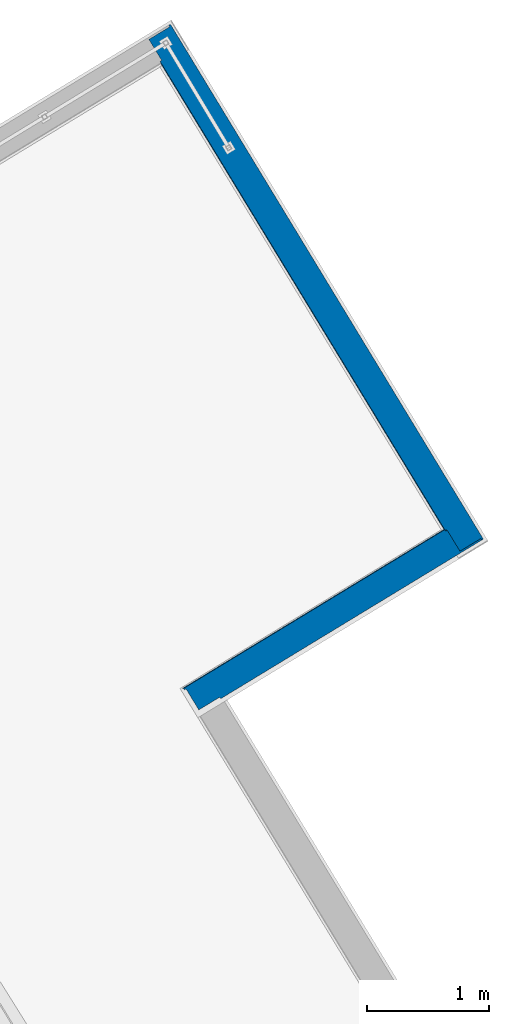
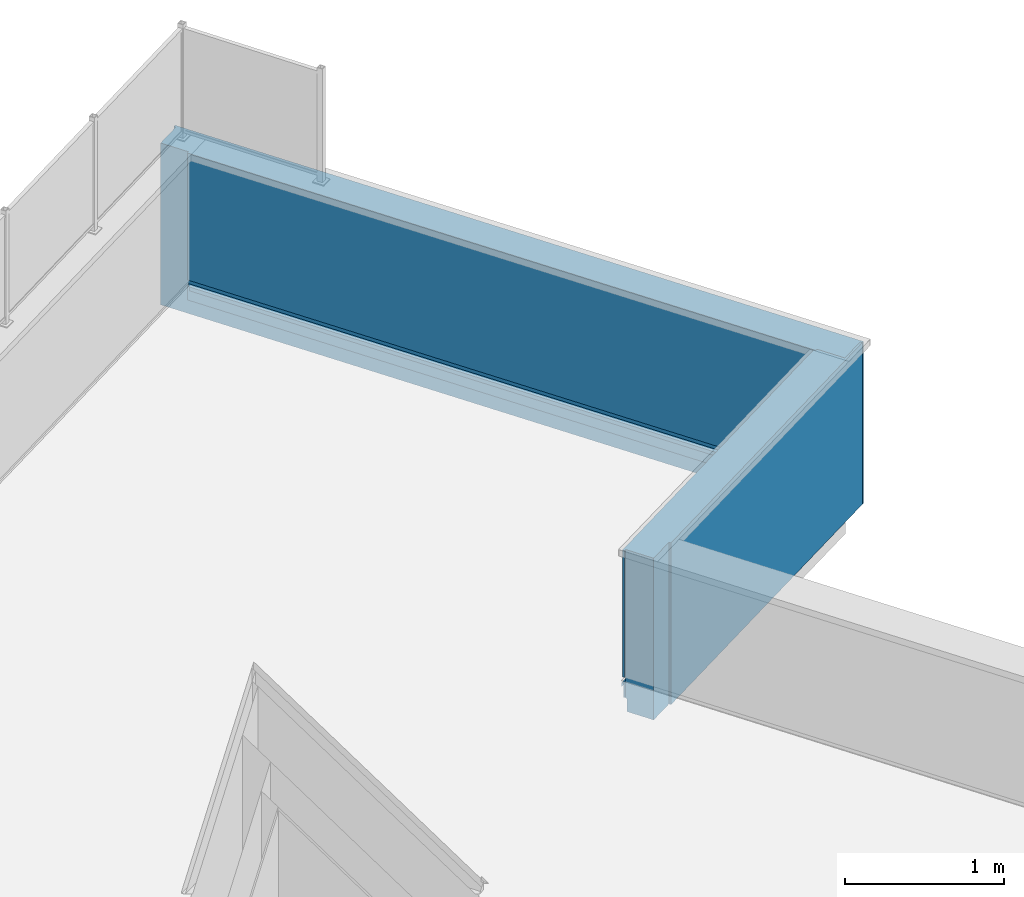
# One storey, part 52 of 91: 2 walls.
"""IFC2X3 building model written with IfcOpenShell, lengths in metres."""

from ifc_helpers import new_model, entity, si_unit, converted_unit, derived_unit, money_unit, direction, frame, origin_with_axes, place, context, subcontext, project, spatial, faceted_brep, material, material_list, type_object, element, save


model = new_model("IFC2X3")

# Units and contexts
model_context = context("Model", 3, precision=1e-05, world=origin_with_axes(), true_north=direction((0.0, 1.0)))
body_context = subcontext(model_context, "Body", "Model", "MODEL_VIEW")
ifc_project = project(units=[si_unit("LENGTHUNIT", "METRE"), si_unit("AREAUNIT", "SQUARE_METRE"), si_unit("VOLUMEUNIT", "CUBIC_METRE"), converted_unit("PLANEANGLEUNIT", "DEGREE", entity("IfcPlaneAngleMeasure", 0.0174532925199), si_unit("PLANEANGLEUNIT", "RADIAN"), dimensions=[0, 0, 0, 0, 0, 0, 0]), si_unit("SOLIDANGLEUNIT", "STERADIAN"), money_unit("EUR"), converted_unit("TIMEUNIT", "Year", entity("IfcTimeMeasure", 31556926.0), si_unit("TIMEUNIT", "SECOND"), dimensions=[0, 0, 1, 0, 0, 0, 0]), si_unit("MASSUNIT", "GRAM", prefix="KILO"), si_unit("THERMODYNAMICTEMPERATUREUNIT", "DEGREE_CELSIUS"), si_unit("LUMINOUSINTENSITYUNIT", "LUMEN"), si_unit("ENERGYUNIT", "JOULE", prefix="MEGA"), derived_unit("THERMALCONDUCTANCEUNIT", [(si_unit("POWERUNIT", "WATT"), 1), (si_unit("LENGTHUNIT", "METRE"), -1), (si_unit("THERMODYNAMICTEMPERATUREUNIT", "KELVIN"), -1)]), derived_unit("SPECIFICHEATCAPACITYUNIT", [(si_unit("ENERGYUNIT", "JOULE"), 1), (si_unit("MASSUNIT", "GRAM", prefix="KILO"), -1), (si_unit("THERMODYNAMICTEMPERATUREUNIT", "KELVIN"), -1)]), derived_unit("MASSDENSITYUNIT", [(si_unit("MASSUNIT", "GRAM", prefix="KILO"), 1), (si_unit("VOLUMEUNIT", "CUBIC_METRE"), -1)])], contexts=[model_context])

# Site, building, storey
site_placement = place(None, origin_with_axes())
site = spatial("IfcSite", under=ifc_project, at=site_placement, Name="Site", CompositionType="ELEMENT")
building_placement = place(site_placement, origin_with_axes())
building = spatial("IfcBuilding", under=site, at=building_placement, Name="Bâtiment", CompositionType="ELEMENT")
storey_placement = place(building_placement, frame((0.0, 0.0, 5.44), z_axis=(0.0, 0.0, 1.0), x_axis=(1.0, 0.0, 0.0)))
storey = spatial("IfcBuildingStorey", under=building, at=storey_placement, Name="R+2", CompositionType="ELEMENT", Elevation=5.44)

# Walls
ifc_material_1 = material(Name="Finition ext - Crépis")
ifc_material_2 = material(Name="Béton")
ifc_material_3 = material(Name="Etanchéité - Bitume")
ifc_material_4 = material(Name="Métal - Aluminium")
ifc_material_list = material_list([ifc_material_1, ifc_material_2, ifc_material_3, ifc_material_1, ifc_material_4])
wall_type = type_object("IfcWallType", Name="Acrotère pour plancher 21 isolée TERRASSE ACCESSIBLE 235 x 1240", PredefinedType="USERDEFINED")
wall_1_placement = place(storey_placement, frame((2.89401231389, 21.9500525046, 0.0), z_axis=(0.0, 0.0, 1.0), x_axis=(-0.854539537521, -0.519386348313, 0.0)))
element("IfcWall", 1, at=wall_1_placement, inside=storey, type_object=wall_type, material=ifc_material_list, Name="Muret béton 20cm", ObjectType="PARAPET", context=body_context, shape_type="Brep", body=[
    faceted_brep([(0.0149999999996, -0.015, 1.24), (2.51500000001, -0.015, 1.24), (2.51500000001, 0.0, 1.24), (0.015, 0.0, 1.24), (2.51500000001, -0.015, 0.228976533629), (2.51500000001, -0.015, 0.267041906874), (0.0149999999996, -0.015, 0.267041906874), (0.0149999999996, -0.015, 0.228976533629), (0.0149999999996, -0.015, 0.22), (0.0149999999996, -0.015, 0.192882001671), (0.0149999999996, -0.015, 0.1), (0.0149999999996, -0.015, 0.0), (2.51500000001, -0.015, 0.0), (2.51500000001, -0.015, 0.1), (2.51500000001, -0.015, 0.192882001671), (2.51500000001, -0.015, 0.22), (2.51500000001, 0.0, 0.267041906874), (2.51500000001, 0.0, 0.228976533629), (2.51500000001, 0.0, 0.22), (2.51500000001, 0.0, 0.192882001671), (2.51500000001, 0.0, 0.1), (2.51500000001, 0.0, 0.0), (0.015, 0.0, 0.0), (0.015, 0.0, 0.1), (0.015, 0.0, 0.192882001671), (0.015, 0.0, 0.22), (0.015, 0.0, 0.228976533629), (0.015, 0.0, 0.267041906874)], [[[0, 1, 2, 3]], [[4, 5, 1, 0, 6, 7, 8, 9, 10, 11, 12, 13, 14, 15]], [[5, 16, 2, 1]], [[3, 2, 16, 17, 18, 19, 20, 21, 22, 23, 24, 25, 26, 27]], [[6, 0, 3, 27]], [[17, 16, 5, 4]], [[7, 6, 27, 26]], [[8, 7, 26, 25]], [[9, 8, 25, 24]], [[10, 9, 24, 23]], [[11, 10, 23, 22]], [[22, 21, 12, 11]], [[21, 20, 13, 12]], [[20, 19, 14, 13]], [[19, 18, 15, 14]], [[18, 17, 4, 15]]]),
    faceted_brep([(0.214999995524, -0.204184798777, 0.0), (0.214999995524, -0.204184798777, 0.1), (0.215, -0.015, 0.1), (0.215, -0.015, 0.0), (2.71499999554, -0.204184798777, 0.0), (2.71499999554, -0.204184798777, 0.1), (0.214999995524, -0.215, 0.1), (0.214999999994, -0.215, 0.192882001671), (0.215, -0.015, 0.192882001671), (0.215, -0.015, 1.24), (2.71500000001, -0.015, 1.24), (2.71500000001, -0.015, 0.267041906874), (2.71500000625, -0.015, 0.228976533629), (2.71500000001, -0.015, 0.22), (2.71500000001, -0.015, 0.192882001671), (2.71500000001, -0.015, 0.1), (2.71500000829, -0.015, 0.0), (0.215, -0.015, 0.22), (0.215, -0.015, 0.228976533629), (0.215, -0.015, 0.267041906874), (2.71500000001, -0.215, 0.1), (2.71500000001, -0.215, 0.192882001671), (2.71500000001, -0.215, 0.22), (0.214999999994, -0.215, 0.22), (0.214999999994, -0.215, 1.24), (2.71500000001, -0.215, 1.24), (2.71500000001, -0.215, 0.267041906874), (2.71500000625, -0.215, 0.228976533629), (0.214999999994, -0.215, 0.228976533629), (0.214999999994, -0.215, 0.267041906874)], [[[0, 1, 2, 3]], [[1, 0, 4, 5]], [[1, 6, 7, 8, 2]], [[9, 10, 11, 12, 13, 14, 15, 16, 3, 2, 8, 17, 18, 19]], [[4, 0, 3, 16]], [[5, 4, 16, 15]], [[6, 1, 5, 20]], [[6, 20, 21, 22, 23, 7]], [[7, 23, 17, 8]], [[24, 25, 10, 9]], [[26, 11, 10, 25]], [[12, 11, 26, 27]], [[13, 12, 27, 22]], [[14, 13, 22, 21]], [[20, 5, 15, 14, 21]], [[23, 28, 18, 17]], [[28, 29, 19, 18]], [[29, 24, 9, 19]], [[23, 22, 27, 28]], [[27, 26, 25, 24, 29, 28]]]),
    faceted_brep([(2.72500000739, -0.215, 0.11), (2.71500000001, -0.215, 0.11), (0.224999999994, -0.215, 0.11), (0.224999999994, -0.215, 0.192882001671), (0.224999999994, -0.215, 0.22), (2.72499999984, -0.215, 0.22), (2.72499999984, -0.215, 0.192882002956), (0.224999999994, -0.225, 0.11), (2.72500000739, -0.225, 0.11), (0.224999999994, -0.225, 0.192882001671), (0.224999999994, -0.225, 0.22), (2.72499999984, -0.225, 0.22), (2.72499999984, -0.225, 0.192882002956)], [[[0, 1, 2, 3, 4, 5, 6]], [[7, 2, 1, 0, 8]], [[2, 7, 9, 3]], [[9, 10, 4, 3]], [[10, 11, 5, 4]], [[12, 6, 5, 11]], [[8, 0, 6, 12]], [[7, 8, 12, 11, 10, 9]]]),
    faceted_brep([(0.229999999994, -0.215, 0.267041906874), (0.229999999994, -0.215, 1.24), (2.7300000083, -0.215, 1.24), (2.7300000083, -0.215, 0.267041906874), (0.229999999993, -0.23, 1.24), (0.229999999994, -0.216045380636, 0.267041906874), (0.229999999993, -0.23, 0.267041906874), (2.7300000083, -0.23, 1.24), (2.7300000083, -0.216045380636, 0.267041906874), (2.7300000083, -0.23, 0.267041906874)], [[[0, 1, 2, 3]], [[4, 1, 0, 5, 6]], [[1, 4, 7, 2]], [[8, 3, 2, 7, 9]], [[5, 0, 3, 8]], [[6, 5, 8, 9]], [[4, 6, 9, 7]]]),
    faceted_brep([(0.21864041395, -0.215, 0.228976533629), (0.216045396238, -0.215, 0.230023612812), (0.216045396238, -0.215, 0.267041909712), (2.71604538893, -0.215, 0.267041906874), (2.71604538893, -0.215, 0.230023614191), (2.71864040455, -0.215, 0.228976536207), (0.21864041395, -0.218640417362, 0.228976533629), (0.216045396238, -0.216045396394, 0.230023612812), (0.216045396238, -0.216045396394, 0.267041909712), (2.71604538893, -0.216045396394, 0.267041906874), (2.71604538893, -0.216045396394, 0.230023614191), (2.73548465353, -0.231614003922, 0.222179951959), (2.73548465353, -0.235484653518, 0.222179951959), (0.235484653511, -0.231614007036, 0.222179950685), (2.73548465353, -0.234250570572, 0.221101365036), (0.235484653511, -0.234250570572, 0.221101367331), (0.235484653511, -0.235484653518, 0.222179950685), (2.73548465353, -0.234250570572, 0.192882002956), (2.73548465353, -0.235484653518, 0.192882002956), (0.235484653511, -0.234250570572, 0.22), (0.235484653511, -0.234250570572, 0.192882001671), (0.235484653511, -0.235484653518, 0.22), (0.235484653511, -0.235484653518, 0.192882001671)], [[[0, 1, 2, 3, 4, 5]], [[1, 0, 6, 7]], [[8, 2, 1, 7]], [[2, 8, 9, 3]], [[10, 4, 3, 9]], [[11, 5, 4, 10, 12]], [[13, 0, 5, 11, 14, 15]], [[6, 0, 13, 16]], [[7, 6, 16, 12, 10]], [[8, 7, 10, 9]], [[17, 14, 11, 12, 18]], [[19, 15, 14, 17, 20]], [[13, 15, 19, 21, 16]], [[16, 21, 22, 18, 12]], [[22, 20, 17, 18]], [[21, 19, 20, 22]]]),
])
wall_2_placement = place(storey_placement, frame((0.333861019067, 26.1622358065, 0.0), z_axis=(0.0, 0.0, 1.0), x_axis=(0.519386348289, -0.854539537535, 0.0)))
element("IfcWall", 2, at=wall_2_placement, inside=storey, type_object=wall_type, material=ifc_material_list, Name="Muret béton 20cm", ObjectType="PARAPET", context=body_context, shape_type="Brep", body=[
    faceted_brep([(8.28564949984e-09, -0.015, 1.24), (4.92918479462, -0.015, 1.24), (4.92918479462, 0.0, 1.24), (8.28520541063e-09, 0.0, 1.24), (8.28564949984e-09, -0.015, 0.0), (4.92918479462, -0.015, 0.0), (4.92918479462, 0.0, 0.0), (8.28520541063e-09, 0.0, 0.0)], [[[0, 1, 2, 3]], [[4, 5, 1, 0]], [[5, 6, 2, 1]], [[3, 2, 6, 7]], [[4, 0, 3, 7]], [[7, 6, 5, 4]]]),
    faceted_brep([(0.0150000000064, -0.215, 1.24), (4.91418480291, -0.215, 1.24), (4.91418480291, -0.015, 1.24), (0.0150000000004, -0.015, 1.24), (4.91418480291, -0.215, 0.228976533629), (0.0150000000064, -0.215, 0.228976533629), (4.91418480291, -0.015, 0.0), (4.91418480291, -0.215, 0.22), (4.91418480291, -0.215, 0.1), (4.91418480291, -0.215, 0.0), (0.0150000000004, -0.015, 0.0), (0.0150000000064, -0.215, 0.0), (0.0150000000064, -0.215, 0.1), (0.0150000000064, -0.215, 0.22)], [[[0, 1, 2, 3]], [[4, 1, 0, 5]], [[6, 2, 1, 4, 7, 8, 9]], [[3, 2, 6, 10]], [[11, 12, 13, 5, 0, 3, 10]], [[13, 7, 4, 5]], [[8, 7, 13, 12]], [[11, 9, 8, 12]], [[10, 6, 9, 11]]]),
    faceted_brep([(4.71418480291, -0.225, 0.11), (4.71418480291, -0.21499999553, 0.11), (4.71418480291, -0.215, 0.22), (4.71418480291, -0.225, 0.22), (0.214999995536, -0.21499999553, 0.11), (0.214999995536, -0.225, 0.11), (0.215000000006, -0.215, 0.22), (0.215000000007, -0.225, 0.22)], [[[0, 1, 2, 3]], [[4, 1, 0, 5]], [[1, 4, 6, 2]], [[7, 3, 2, 6]], [[5, 0, 3, 7]], [[4, 5, 7, 6]]]),
    faceted_brep([(4.71418480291, -0.23, 1.24), (4.71418480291, -0.215, 1.24), (0.215000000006, -0.215, 1.24), (0.215000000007, -0.23, 1.24), (4.71418480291, -0.215, 0.267041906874), (4.71418480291, -0.23, 0.267041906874), (4.71418480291, -0.216045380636, 0.267041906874), (0.215000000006, -0.215, 0.267041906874), (0.215000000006, -0.216045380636, 0.267041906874), (0.215000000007, -0.23, 0.267041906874)], [[[0, 1, 2, 3]], [[4, 1, 0, 5, 6]], [[1, 4, 7, 2]], [[3, 2, 7, 8, 9]], [[5, 0, 3, 9]], [[6, 5, 9, 8]], [[4, 6, 8, 7]]]),
    faceted_brep([(4.71418480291, -0.216045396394, 0.267041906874), (4.71418480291, -0.215, 0.267041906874), (0.215000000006, -0.215, 0.267041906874), (0.215000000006, -0.216045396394, 0.267041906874), (4.71418480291, -0.215, 0.228976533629), (4.71418480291, -0.216045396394, 0.230023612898), (4.71418480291, -0.218640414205, 0.228976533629), (0.215000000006, -0.215, 0.228976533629), (0.215000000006, -0.218640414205, 0.228976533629), (0.215000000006, -0.216045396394, 0.230023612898), (0.231614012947, -0.235484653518, 0.222179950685), (4.69757078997, -0.235484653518, 0.222179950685), (4.69493423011, -0.235484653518, 0.221101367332), (4.69493423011, -0.234250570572, 0.221101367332), (0.234250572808, -0.234250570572, 0.221101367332), (0.234250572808, -0.235484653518, 0.221101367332), (0.234250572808, -0.235484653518, 0.22), (0.234250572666, -0.235484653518, 0.192882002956), (4.69493423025, -0.235484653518, 0.192882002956), (4.69493423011, -0.235484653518, 0.22), (4.69493423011, -0.234250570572, 0.22), (4.69493423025, -0.234250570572, 0.192882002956), (0.234250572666, -0.234250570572, 0.192882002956), (0.234250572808, -0.234250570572, 0.22)], [[[0, 1, 2, 3]], [[4, 1, 0, 5, 6]], [[1, 4, 7, 2]], [[3, 2, 7, 8, 9]], [[5, 0, 3, 9]], [[6, 5, 9, 8, 10, 11]], [[4, 6, 11, 12, 13]], [[4, 13, 14, 7]], [[8, 7, 14, 15, 10]], [[12, 11, 10, 15, 16, 17, 18, 19]], [[20, 13, 12, 19]], [[13, 20, 21, 22, 23, 14]], [[14, 23, 16, 15]], [[16, 23, 22, 17]], [[21, 18, 17, 22]], [[20, 19, 18, 21]]]),
])

save(model, "model.ifc")
